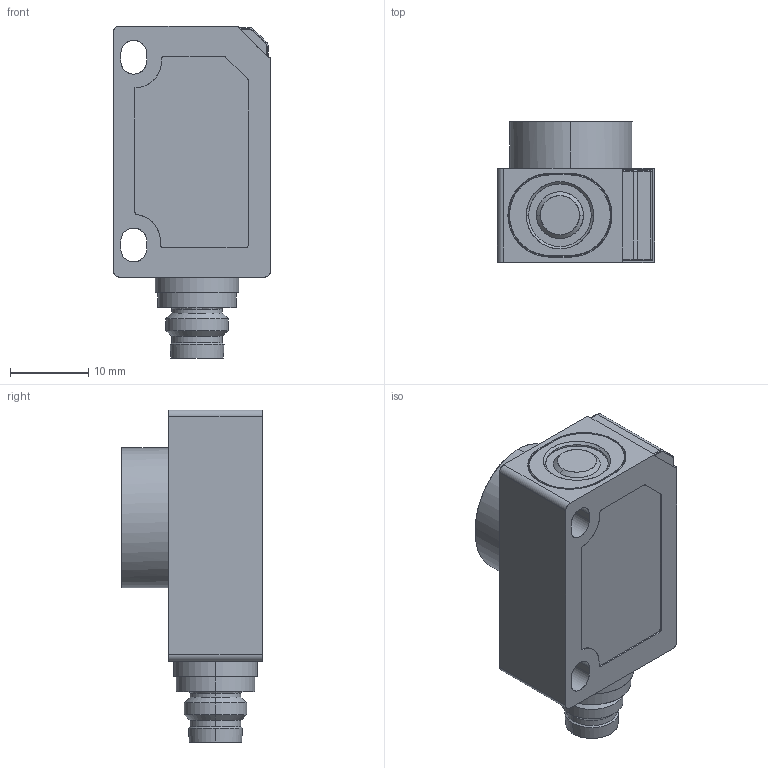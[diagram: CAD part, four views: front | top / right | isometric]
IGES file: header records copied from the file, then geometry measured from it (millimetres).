
Start section: SolidWorks IGES file using analytic representation for surfaces
Global section: file name: Z:\Projekte\Kunststoff-Blechteile\Zeichnungen\Bibliothek Inventor\3D Solids\zws\IGS\zws-35_CX_QS.IGS; native system: SolidWorks 2024; preprocessor: SolidWorks 2024; author: Oliver Liedtke; date: 250425.121936; units: millimetre
Bounding box: 20.11 x 18 x 42.45 mm (x, y, z)
Surface area: 3562.6 mm2 (no closed solid volume)
Topology: 0 solids, 0 shells, 153 faces, 1658 edges, 1650 vertices
Faces by surface type: revolution 87, bspline 66
